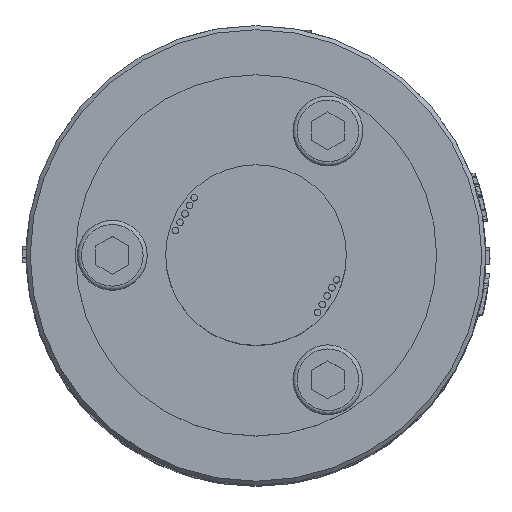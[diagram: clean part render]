
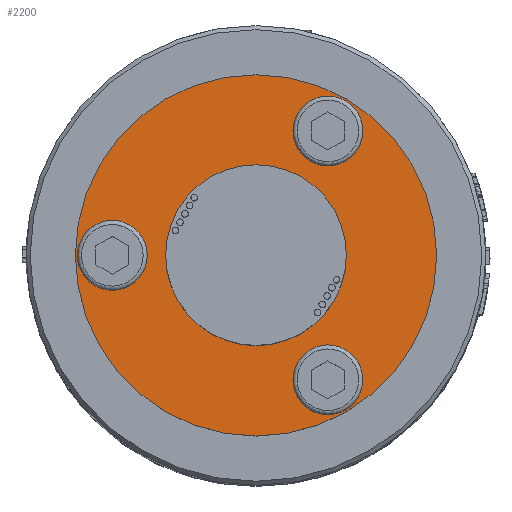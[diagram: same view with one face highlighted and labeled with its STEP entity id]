
A CAD part, top view. The second image highlights one B-rep face of the part: STEP entity #2200.
In plain terms, the highlighted planar face has unit normal (0, 0, 1).
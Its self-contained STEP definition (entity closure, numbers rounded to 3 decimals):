
#471=FACE_BOUND('',#4729,.T.);
#472=FACE_BOUND('',#4730,.T.);
#473=FACE_BOUND('',#4731,.T.);
#474=FACE_BOUND('',#4732,.T.);
#475=FACE_BOUND('',#4733,.T.);
#1174=CIRCLE('',#18350,4.25);
#1176=CIRCLE('',#18361,4.25);
#1179=CIRCLE('',#18374,4.25);
#1203=CIRCLE('',#18431,11.);
#1204=CIRCLE('',#18433,22.);
#2200=ADVANCED_FACE('',(#471,#472,#473,#474,#475),#2694,.T.);
#2694=PLANE('',#18434);
#4729=EDGE_LOOP('',(#11374));
#4730=EDGE_LOOP('',(#11375));
#4731=EDGE_LOOP('',(#11376));
#4732=EDGE_LOOP('',(#11377));
#4733=EDGE_LOOP('',(#11378));
#11374=ORIENTED_EDGE('',*,*,#15546,.F.);
#11375=ORIENTED_EDGE('',*,*,#15560,.F.);
#11376=ORIENTED_EDGE('',*,*,#15581,.F.);
#11377=ORIENTED_EDGE('',*,*,#15624,.T.);
#11378=ORIENTED_EDGE('',*,*,#15623,.F.);
#13066=VERTEX_POINT('',#36241);
#13074=VERTEX_POINT('',#36272);
#13089=VERTEX_POINT('',#36318);
#13125=VERTEX_POINT('',#36429);
#13126=VERTEX_POINT('',#36432);
#15546=EDGE_CURVE('',#13066,#13066,#1174,.T.);
#15560=EDGE_CURVE('',#13074,#13074,#1176,.T.);
#15581=EDGE_CURVE('',#13089,#13089,#1179,.T.);
#15623=EDGE_CURVE('',#13125,#13125,#1203,.T.);
#15624=EDGE_CURVE('',#13126,#13126,#1204,.T.);
#18350=AXIS2_PLACEMENT_3D('',#36240,#20969,#20970);
#18361=AXIS2_PLACEMENT_3D('',#36271,#21003,#21004);
#18374=AXIS2_PLACEMENT_3D('',#36317,#21047,#21048);
#18431=AXIS2_PLACEMENT_3D('',#36428,#21179,#21180);
#18433=AXIS2_PLACEMENT_3D('',#36431,#21183,#21184);
#18434=AXIS2_PLACEMENT_3D('',#36433,#21185,#21186);
#20969=DIRECTION('',(0.,0.,1.));
#20970=DIRECTION('',(-0.866,0.5,0.));
#21003=DIRECTION('',(0.,0.,1.));
#21004=DIRECTION('',(-0.866,0.5,0.));
#21047=DIRECTION('',(0.,0.,1.));
#21048=DIRECTION('',(-0.866,0.5,0.));
#21179=DIRECTION('',(0.,0.,1.));
#21180=DIRECTION('',(0.866,-0.5,0.));
#21183=DIRECTION('',(0.,0.,1.));
#21184=DIRECTION('',(0.866,-0.5,0.));
#21185=DIRECTION('',(0.,0.,1.));
#21186=DIRECTION('',(-0.866,0.5,0.));
#36240=CARTESIAN_POINT('',(8.75,-15.155,100.5));
#36241=CARTESIAN_POINT('',(5.069,-13.03,100.5));
#36271=CARTESIAN_POINT('',(8.75,15.155,100.5));
#36272=CARTESIAN_POINT('',(5.069,17.28,100.5));
#36317=CARTESIAN_POINT('',(-17.5,0.,100.5));
#36318=CARTESIAN_POINT('',(-21.181,2.125,100.5));
#36428=CARTESIAN_POINT('',(0.,0.,100.5));
#36429=CARTESIAN_POINT('',(9.526,-5.5,100.5));
#36431=CARTESIAN_POINT('',(0.,0.,100.5));
#36432=CARTESIAN_POINT('',(19.053,-11.,100.5));
#36433=CARTESIAN_POINT('',(0.,0.,100.5));
